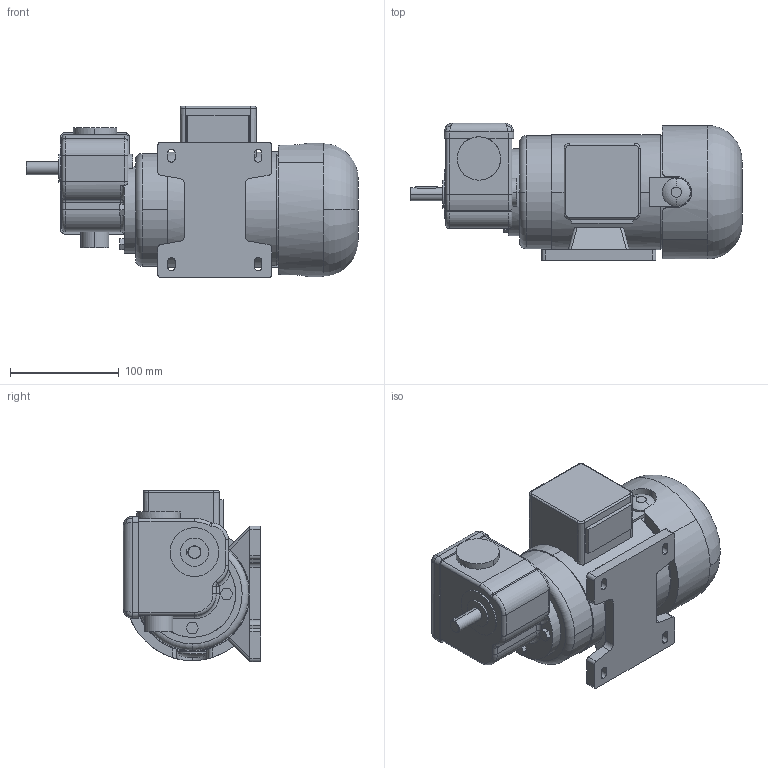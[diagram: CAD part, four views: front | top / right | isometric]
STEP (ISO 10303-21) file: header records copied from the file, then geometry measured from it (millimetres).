
FILE_DESCRIPTION(('OneSpaceDesigner STEP Export'),'2;1');
FILE_NAME('KGOG61-62_G23-10_J.stp','2008-08-21T 7:33:35',(''),(''),'OneSpace Designer STEP processor (Jan. 2003) for AP214(CD)(Solid Model)','OneSpace Designer 12.01D 09-Jul-2004 (C) CoCreate Software GmbH','');
FILE_SCHEMA(('AUTOMOTIVE_DESIGN_CC2 {1 2 10303 214 -1 1 5 1}'));
Length unit declared in the file: millimetre
Products named in the file (2): KGOG61-62_G23-10_J
Assembly tree (1 placements, depth 2):
  KGOG61-62_G23-10_J
    KGOG61-62_G23-10_J
Bounding box: 306 x 126.5 x 158 mm (x, y, z)
Volume: 2886558.6 mm3; surface area: 160110.2 mm2
Topology: 1 solids, 1 shells, 240 faces, 617 edges, 391 vertices
Faces by surface type: plane 98, cylinder 95, bspline 20, torus 20, extrusion 4, cone 2, sphere 1
Entity records: 12530 total; most frequent: CARTESIAN_POINT 7132, ORIENTED_EDGE 1232, DIRECTION 958, EDGE_CURVE 616, VERTEX_POINT 391, AXIS2_PLACEMENT_3D 322, VECTOR 314, LINE 310
